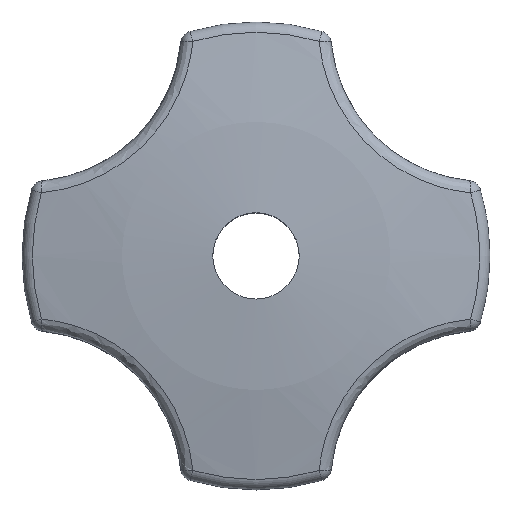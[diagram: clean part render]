
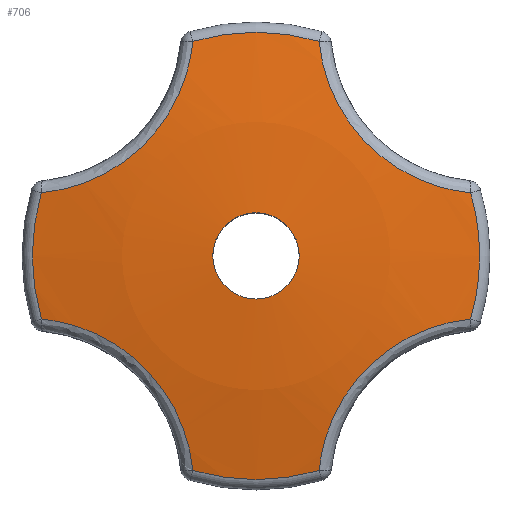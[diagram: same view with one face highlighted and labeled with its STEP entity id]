
A CAD part, top view. The second image highlights one B-rep face of the part: STEP entity #706.
In plain terms, the highlighted spherical face has radius 82 mm.
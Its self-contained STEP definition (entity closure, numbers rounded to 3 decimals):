
#16=FACE_BOUND('',#198,.T.);
#23=B_SPLINE_CURVE_WITH_KNOTS('',3,(#1293,#1294,#1295,#1296,#1297,#1298),
 .UNSPECIFIED.,.F.,.F.,(4,1,1,4),(-2.371,-1.864,-1.356,
-0.594),.UNSPECIFIED.);
#25=B_SPLINE_CURVE_WITH_KNOTS('',3,(#1338,#1339,#1340,#1341,#1342,#1343),
 .UNSPECIFIED.,.F.,.F.,(4,1,1,4),(-2.371,-1.864,-1.356,
-0.594),.UNSPECIFIED.);
#27=B_SPLINE_CURVE_WITH_KNOTS('',3,(#1398,#1399,#1400,#1401,#1402,#1403),
 .UNSPECIFIED.,.F.,.F.,(4,1,1,4),(-2.371,-1.61,-1.102,
-0.594),.UNSPECIFIED.);
#29=B_SPLINE_CURVE_WITH_KNOTS('',3,(#1443,#1444,#1445,#1446,#1447,#1448),
 .UNSPECIFIED.,.F.,.F.,(4,1,1,4),(-2.371,-1.61,-1.102,
-0.594),.UNSPECIFIED.);
#142=FACE_OUTER_BOUND('',#197,.T.);
#197=EDGE_LOOP('',(#608));
#198=EDGE_LOOP('',(#609,#610,#611,#612,#613,#614,#615,#616));
#234=CIRCLE('',#748,17.21);
#258=CIRCLE('',#781,17.21);
#279=CIRCLE('',#816,17.21);
#283=CIRCLE('',#825,17.21);
#285=CIRCLE('',#832,3.324);
#289=VERTEX_POINT('',#1119);
#293=VERTEX_POINT('',#1127);
#296=VERTEX_POINT('',#1134);
#301=VERTEX_POINT('',#1147);
#307=VERTEX_POINT('',#1161);
#314=VERTEX_POINT('',#1182);
#320=VERTEX_POINT('',#1196);
#325=VERTEX_POINT('',#1212);
#338=VERTEX_POINT('',#1465);
#364=EDGE_CURVE('',#307,#296,#234,.T.);
#388=EDGE_CURVE('',#325,#320,#258,.T.);
#412=EDGE_CURVE('',#314,#325,#23,.T.);
#416=EDGE_CURVE('',#320,#307,#25,.T.);
#423=EDGE_CURVE('',#301,#314,#279,.T.);
#430=EDGE_CURVE('',#293,#301,#27,.T.);
#434=EDGE_CURVE('',#296,#289,#29,.T.);
#437=EDGE_CURVE('',#289,#293,#283,.T.);
#439=EDGE_CURVE('',#338,#338,#285,.T.);
#608=ORIENTED_EDGE('',*,*,#439,.T.);
#609=ORIENTED_EDGE('',*,*,#388,.F.);
#610=ORIENTED_EDGE('',*,*,#412,.F.);
#611=ORIENTED_EDGE('',*,*,#423,.F.);
#612=ORIENTED_EDGE('',*,*,#430,.F.);
#613=ORIENTED_EDGE('',*,*,#437,.F.);
#614=ORIENTED_EDGE('',*,*,#434,.F.);
#615=ORIENTED_EDGE('',*,*,#364,.F.);
#616=ORIENTED_EDGE('',*,*,#416,.F.);
#661=SPHERICAL_SURFACE('',#831,82.);
#706=ADVANCED_FACE('',(#142,#16),#661,.T.);
#748=AXIS2_PLACEMENT_3D('',#1169,#907,#908);
#781=AXIS2_PLACEMENT_3D('',#1220,#973,#974);
#816=AXIS2_PLACEMENT_3D('',#1358,#1053,#1054);
#825=AXIS2_PLACEMENT_3D('',#1457,#1077,#1078);
#831=AXIS2_PLACEMENT_3D('',#1464,#1089,#1090);
#832=AXIS2_PLACEMENT_3D('',#1466,#1091,#1092);
#907=DIRECTION('center_axis',(0.,0.,-1.));
#908=DIRECTION('ref_axis',(1.,0.,0.));
#973=DIRECTION('center_axis',(0.,0.,-1.));
#974=DIRECTION('ref_axis',(0.,1.,0.));
#1053=DIRECTION('center_axis',(0.,0.,-1.));
#1054=DIRECTION('ref_axis',(-1.,0.,0.));
#1077=DIRECTION('center_axis',(0.,0.,-1.));
#1078=DIRECTION('ref_axis',(0.,-1.,0.));
#1089=DIRECTION('center_axis',(0.,0.,1.));
#1090=DIRECTION('ref_axis',(1.,0.,0.));
#1091=DIRECTION('center_axis',(0.,0.,-1.));
#1092=DIRECTION('ref_axis',(-1.,0.,0.));
#1119=CARTESIAN_POINT('',(4.854,-16.511,-1.826));
#1127=CARTESIAN_POINT('',(-4.853,-16.511,-1.826));
#1134=CARTESIAN_POINT('',(16.511,-4.853,-1.826));
#1147=CARTESIAN_POINT('',(-16.511,-4.854,-1.826));
#1161=CARTESIAN_POINT('',(16.511,4.854,-1.826));
#1169=CARTESIAN_POINT('Origin',(0.,0.,-1.826));
#1182=CARTESIAN_POINT('',(-16.511,4.853,-1.826));
#1196=CARTESIAN_POINT('',(4.853,16.511,-1.826));
#1212=CARTESIAN_POINT('',(-4.854,16.511,-1.826));
#1220=CARTESIAN_POINT('Origin',(0.,0.,-1.826));
#1293=CARTESIAN_POINT('Ctrl Pts',(-16.511,4.853,-1.826));
#1294=CARTESIAN_POINT('Ctrl Pts',(-14.839,5.015,-1.492));
#1295=CARTESIAN_POINT('Ctrl Pts',(-11.526,6.001,-0.98));
#1296=CARTESIAN_POINT('Ctrl Pts',(-6.774,9.88,-0.79));
#1297=CARTESIAN_POINT('Ctrl Pts',(-5.095,14.002,-1.324));
#1298=CARTESIAN_POINT('Ctrl Pts',(-4.854,16.511,-1.826));
#1338=CARTESIAN_POINT('Ctrl Pts',(4.853,16.511,-1.826));
#1339=CARTESIAN_POINT('Ctrl Pts',(5.015,14.839,-1.492));
#1340=CARTESIAN_POINT('Ctrl Pts',(6.001,11.526,-0.98));
#1341=CARTESIAN_POINT('Ctrl Pts',(9.88,6.774,-0.79));
#1342=CARTESIAN_POINT('Ctrl Pts',(14.002,5.095,-1.324));
#1343=CARTESIAN_POINT('Ctrl Pts',(16.511,4.854,-1.826));
#1358=CARTESIAN_POINT('Origin',(0.,0.,-1.826));
#1398=CARTESIAN_POINT('Ctrl Pts',(-4.853,-16.511,-1.826));
#1399=CARTESIAN_POINT('Ctrl Pts',(-5.095,-14.002,-1.324));
#1400=CARTESIAN_POINT('Ctrl Pts',(-6.774,-9.88,-0.79));
#1401=CARTESIAN_POINT('Ctrl Pts',(-11.526,-6.001,-0.98));
#1402=CARTESIAN_POINT('Ctrl Pts',(-14.838,-5.015,-1.492));
#1403=CARTESIAN_POINT('Ctrl Pts',(-16.511,-4.854,-1.826));
#1443=CARTESIAN_POINT('Ctrl Pts',(16.511,-4.853,-1.826));
#1444=CARTESIAN_POINT('Ctrl Pts',(14.002,-5.095,-1.324));
#1445=CARTESIAN_POINT('Ctrl Pts',(9.88,-6.774,-0.79));
#1446=CARTESIAN_POINT('Ctrl Pts',(6.001,-11.526,-0.98));
#1447=CARTESIAN_POINT('Ctrl Pts',(5.015,-14.838,-1.492));
#1448=CARTESIAN_POINT('Ctrl Pts',(4.854,-16.511,-1.826));
#1457=CARTESIAN_POINT('Origin',(0.,0.,-1.826));
#1464=CARTESIAN_POINT('Origin',(0.,0.,-82.));
#1465=CARTESIAN_POINT('',(3.324,0.,-0.067));
#1466=CARTESIAN_POINT('Origin',(0.,0.,-0.067));
